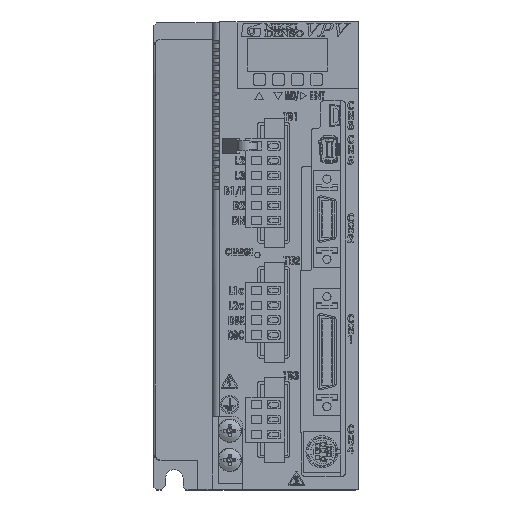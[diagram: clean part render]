
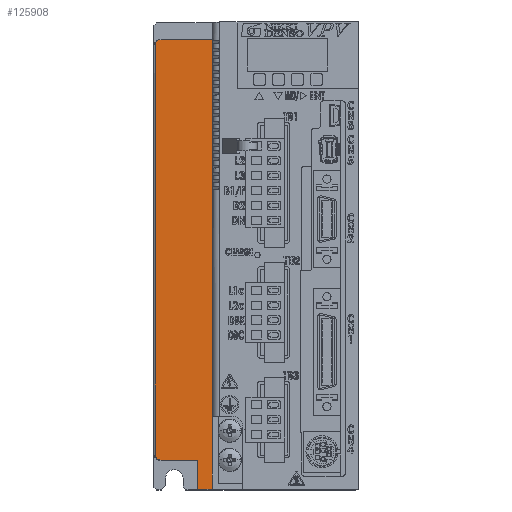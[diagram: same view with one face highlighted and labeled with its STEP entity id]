
A CAD part, top view. The second image highlights one B-rep face of the part: STEP entity #125908.
In plain terms, the highlighted planar face has unit normal (0, 0, 1).
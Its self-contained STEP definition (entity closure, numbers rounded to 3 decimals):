
#819 = CIRCLE ( 'NONE', #22664, 2.5 ) ;
#8769 = AXIS2_PLACEMENT_3D ( 'NONE', #76362, #103736, #128527 ) ;
#11596 = EDGE_CURVE ( 'NONE', #83387, #146147, #89839, .T. ) ;
#11717 = DIRECTION ( 'NONE',  ( 0., 0., -1. ) ) ;
#11989 = CARTESIAN_POINT ( 'NONE',  ( -67.5, -147.5, 151.5 ) ) ;
#12211 = PLANE ( 'NONE',  #8769 ) ;
#13972 = ORIENTED_EDGE ( 'NONE', *, *, #14900, .F. ) ;
#14900 = EDGE_CURVE ( 'NONE', #65995, #22889, #17700, .T. ) ;
#15031 = EDGE_CURVE ( 'NONE', #131611, #55214, #134024, .T. ) ;
#16047 = CARTESIAN_POINT ( 'NONE',  ( -55., -150., 151.5 ) ) ;
#16114 = CARTESIAN_POINT ( 'NONE',  ( -55., -150., 151.5 ) ) ;
#17284 = CARTESIAN_POINT ( 'NONE',  ( -55., -160., 151.5 ) ) ;
#17700 = LINE ( 'NONE', #43363, #96891 ) ;
#22664 = AXIS2_PLACEMENT_3D ( 'NONE', #168186, #11717, #35675 ) ;
#22889 = VERTEX_POINT ( 'NONE', #152130 ) ;
#24827 = DIRECTION ( 'NONE',  ( 0., 1., 0. ) ) ;
#25927 = CARTESIAN_POINT ( 'NONE',  ( -55., -160., 151.5 ) ) ;
#26371 = AXIS2_PLACEMENT_3D ( 'NONE', #11989, #76983, #126613 ) ;
#28368 = ORIENTED_EDGE ( 'NONE', *, *, #68297, .F. ) ;
#28956 = CARTESIAN_POINT ( 'NONE',  ( -69.5, -7., 151.5 ) ) ;
#35675 = DIRECTION ( 'NONE',  ( -1., 0., 0. ) ) ;
#36840 = CARTESIAN_POINT ( 'NONE',  ( -50., -160., 151.5 ) ) ;
#39470 = CARTESIAN_POINT ( 'NONE',  ( -50., -160., 151.5 ) ) ;
#40048 = CIRCLE ( 'NONE', #26371, 2.5 ) ;
#43363 = CARTESIAN_POINT ( 'NONE',  ( -50., -6., 151.5 ) ) ;
#44234 = EDGE_CURVE ( 'NONE', #152654, #22889, #158324, .T. ) ;
#48875 = CARTESIAN_POINT ( 'NONE',  ( -67.5, -150., 151.5 ) ) ;
#55214 = VERTEX_POINT ( 'NONE', #48875 ) ;
#55632 = EDGE_CURVE ( 'NONE', #152654, #143154, #138082, .T. ) ;
#57848 = DIRECTION ( 'NONE',  ( 1., 0., 0. ) ) ;
#61462 = VECTOR ( 'NONE', #121188, 1000. ) ;
#65995 = VERTEX_POINT ( 'NONE', #110245 ) ;
#68297 = EDGE_CURVE ( 'NONE', #143154, #131611, #123278, .T. ) ;
#73872 = ORIENTED_EDGE ( 'NONE', *, *, #11596, .F. ) ;
#76362 = CARTESIAN_POINT ( 'NONE',  ( -50., -160., 151.5 ) ) ;
#76983 = DIRECTION ( 'NONE',  ( 0., 0., -1. ) ) ;
#80997 = ORIENTED_EDGE ( 'NONE', *, *, #44234, .T. ) ;
#83387 = VERTEX_POINT ( 'NONE', #84769 ) ;
#84769 = CARTESIAN_POINT ( 'NONE',  ( -69.5, -149., 151.5 ) ) ;
#88453 = DIRECTION ( 'NONE',  ( -1., 0., 0. ) ) ;
#89839 = LINE ( 'NONE', #142006, #156337 ) ;
#96891 = VECTOR ( 'NONE', #57848, 1000. ) ;
#103736 = DIRECTION ( 'NONE',  ( 0., 0., -1. ) ) ;
#104094 = EDGE_LOOP ( 'NONE', ( #13972, #124514, #73872, #106171, #119007, #28368, #159003, #80997 ) ) ;
#106171 = ORIENTED_EDGE ( 'NONE', *, *, #159812, .F. ) ;
#108778 = DIRECTION ( 'NONE',  ( 0., 1., 0. ) ) ;
#110245 = CARTESIAN_POINT ( 'NONE',  ( -67.5, -6., 151.5 ) ) ;
#113454 = VECTOR ( 'NONE', #120673, 1000. ) ;
#114121 = CARTESIAN_POINT ( 'NONE',  ( -50., -160., 151.5 ) ) ;
#119007 = ORIENTED_EDGE ( 'NONE', *, *, #15031, .F. ) ;
#120673 = DIRECTION ( 'NONE',  ( 0., 1., 0. ) ) ;
#121188 = DIRECTION ( 'NONE',  ( -1., 0., 0. ) ) ;
#123278 = LINE ( 'NONE', #17284, #156641 ) ;
#124514 = ORIENTED_EDGE ( 'NONE', *, *, #156663, .F. ) ;
#125908 = ADVANCED_FACE ( 'NONE', ( #129367 ), #12211, .F. ) ;
#126613 = DIRECTION ( 'NONE',  ( -1., 0., 0. ) ) ;
#128527 = DIRECTION ( 'NONE',  ( -1., 0., 0. ) ) ;
#129367 = FACE_OUTER_BOUND ( 'NONE', #104094, .T. ) ;
#131611 = VERTEX_POINT ( 'NONE', #16114 ) ;
#134024 = LINE ( 'NONE', #16047, #61462 ) ;
#138082 = LINE ( 'NONE', #114121, #143833 ) ;
#142006 = CARTESIAN_POINT ( 'NONE',  ( -69.5, -160., 151.5 ) ) ;
#143154 = VERTEX_POINT ( 'NONE', #25927 ) ;
#143833 = VECTOR ( 'NONE', #88453, 1000. ) ;
#146147 = VERTEX_POINT ( 'NONE', #28956 ) ;
#152130 = CARTESIAN_POINT ( 'NONE',  ( -50., -6., 151.5 ) ) ;
#152654 = VERTEX_POINT ( 'NONE', #36840 ) ;
#156337 = VECTOR ( 'NONE', #24827, 1000. ) ;
#156641 = VECTOR ( 'NONE', #108778, 1000. ) ;
#156663 = EDGE_CURVE ( 'NONE', #146147, #65995, #819, .T. ) ;
#158324 = LINE ( 'NONE', #39470, #113454 ) ;
#159003 = ORIENTED_EDGE ( 'NONE', *, *, #55632, .F. ) ;
#159812 = EDGE_CURVE ( 'NONE', #55214, #83387, #40048, .T. ) ;
#168186 = CARTESIAN_POINT ( 'NONE',  ( -67.5, -8.5, 151.5 ) ) ;
